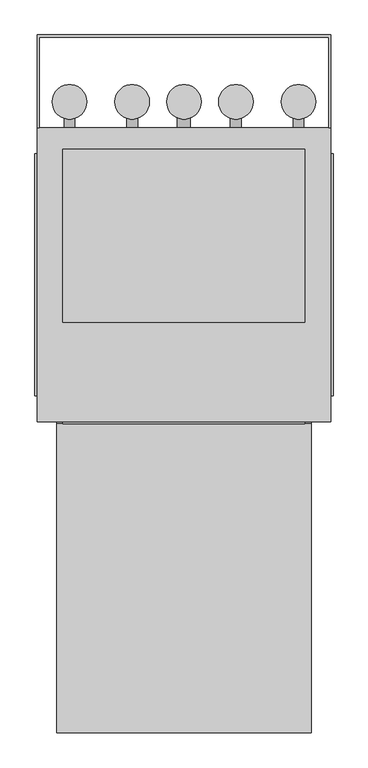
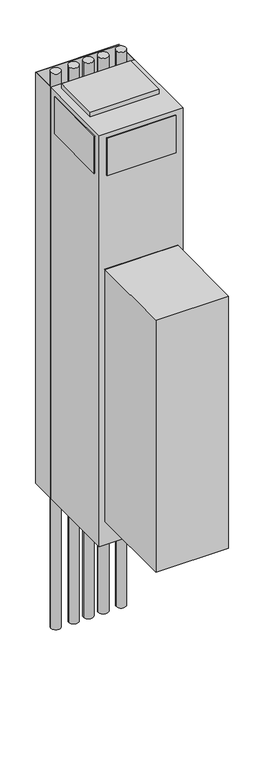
"""IFC4 building model written with IfcOpenShell, lengths in millimetres: proxy geometry, Exposed_Modular_Fan_Coil_Unit_-_42SHA_-_CARRIER_-_4-Pipe_-_WithRisers_2022 : Size 03 - 277v/60Hz/1Ph - 4/1 Coil."""

from ifc_helpers import new_model, si_unit, point, frame, frame_2d, origin, origin_with_axes, place, context, project, spatial, polyline, circle_curve, trimmed, segment, composite_curve, outline, extrude, source, transform, mapped, element, save


def mechanical_equipment_78186132(model_context):
    return source(origin(), model_context, "Body", "SweptSolid", [
        extrude(outline(composite_curve([segment(trimmed(circle_curve(frame_2d((200.025, 282.575)), 25.4), [point((225.425, 282.575))], [point((174.625, 282.575))], False, "CARTESIAN"), True, "CONTINUOUS"), segment(trimmed(circle_curve(frame_2d((200.025, 282.575)), 25.4), [point((174.625, 282.575))], [point((225.425, 282.575))], False, "CARTESIAN"), True, "CONTINUOUS")], self_intersect=False)), frame((0.0, 0.0, -736.6), z_axis=(0.0, 0.0, 1.0), x_axis=(1.0, 0.0, 0.0)), (0.0, 0.0, 1.0), 3022.6),
        extrude(outline(composite_curve([segment(trimmed(circle_curve(frame_2d((292.1, 282.575)), 25.4), [point((317.5, 282.575))], [point((266.7, 282.575))], False, "CARTESIAN"), True, "CONTINUOUS"), segment(trimmed(circle_curve(frame_2d((292.1, 282.575)), 25.4), [point((266.7, 282.575))], [point((317.5, 282.575))], False, "CARTESIAN"), True, "CONTINUOUS")], self_intersect=False)), frame((0.0, 0.0, -736.6), z_axis=(0.0, 0.0, 1.0), x_axis=(1.0, 0.0, 0.0)), (0.0, 0.0, 1.0), 3022.6),
        extrude(outline(composite_curve([segment(trimmed(circle_curve(frame_2d((368.3, 282.575)), 25.4), [point((393.7, 282.575))], [point((342.9, 282.575))], False, "CARTESIAN"), True, "CONTINUOUS"), segment(trimmed(circle_curve(frame_2d((368.3, 282.575)), 25.4), [point((342.9, 282.575))], [point((393.7, 282.575))], False, "CARTESIAN"), True, "CONTINUOUS")], self_intersect=False)), frame((0.0, 0.0, -736.6), z_axis=(0.0, 0.0, 1.0), x_axis=(1.0, 0.0, 0.0)), (0.0, 0.0, 1.0), 3022.6),
        extrude(outline(composite_curve([segment(trimmed(circle_curve(frame_2d((444.5, 282.575)), 25.4), [point((469.9, 282.575))], [point((419.1, 282.575))], False, "CARTESIAN"), True, "CONTINUOUS"), segment(trimmed(circle_curve(frame_2d((444.5, 282.575)), 25.4), [point((419.1, 282.575))], [point((469.9, 282.575))], False, "CARTESIAN"), True, "CONTINUOUS")], self_intersect=False)), frame((0.0, 0.0, -736.6), z_axis=(0.0, 0.0, 1.0), x_axis=(1.0, 0.0, 0.0)), (0.0, 0.0, 1.0), 3022.6),
        extrude(outline(composite_curve([segment(trimmed(circle_curve(frame_2d((536.575, 282.575)), 25.4), [point((561.975, 282.575))], [point((511.175, 282.575))], False, "CARTESIAN"), True, "CONTINUOUS"), segment(trimmed(circle_curve(frame_2d((536.575, 282.575)), 25.4), [point((511.175, 282.575))], [point((561.975, 282.575))], False, "CARTESIAN"), True, "CONTINUOUS")], self_intersect=False)), frame((0.0, 0.0, -736.6), z_axis=(0.0, 0.0, 1.0), x_axis=(1.0, 0.0, 0.0)), (0.0, 0.0, 1.0), 3022.6),
        extrude(outline(polyline([(555.625, -190.5), (555.625, -644.525), (180.975, -644.525), (180.975, -190.5), (555.625, -190.5)])), frame((0.0, 0.0, 127.0), z_axis=(0.0, 0.0, 1.0), x_axis=(1.0, 0.0, 0.0)), (0.0, 0.0, 1.0), 1371.6),
        extrude(outline(polyline([(152.4, 381.0), (584.2, 381.0), (584.2, 244.475), (581.025, 244.475), (581.025, 377.825), (155.575, 377.825), (155.575, 244.475), (152.4, 244.475), (152.4, 381.0)])), origin_with_axes(), (0.0, 0.0, 1.0), 2235.2),
        extrude(outline(composite_curve([segment(trimmed(circle_curve(frame_2d((990.6, 444.5)), 7.9375), [point((990.6, 452.4375))], [point((990.6, 436.5625))], False, "CARTESIAN"), True, "CONTINUOUS"), segment(trimmed(circle_curve(frame_2d((990.6, 444.5)), 7.9375), [point((990.6, 436.5625))], [point((990.6, 452.4375))], False, "CARTESIAN"), True, "CONTINUOUS")], self_intersect=False)), frame((0.0, 244.475, 0.0), z_axis=(0.0, 1.0, 0.0), x_axis=(0.0, 0.0, 1.0)), (0.0, 0.0, 1.0), 25.4),
        extrude(outline(composite_curve([segment(trimmed(circle_curve(frame_2d((990.6, 292.1)), 7.9375), [point((990.6, 300.0375))], [point((990.6, 284.1625))], False, "CARTESIAN"), True, "CONTINUOUS"), segment(trimmed(circle_curve(frame_2d((990.6, 292.1)), 7.9375), [point((990.6, 284.1625))], [point((990.6, 300.0375))], False, "CARTESIAN"), True, "CONTINUOUS")], self_intersect=False)), frame((0.0, 244.475, 0.0), z_axis=(0.0, 1.0, 0.0), x_axis=(0.0, 0.0, 1.0)), (0.0, 0.0, 1.0), 25.4),
        extrude(outline(composite_curve([segment(trimmed(circle_curve(frame_2d((76.2, 368.3)), 9.525), [point((76.2, 377.825))], [point((76.2, 358.775))], False, "CARTESIAN"), True, "CONTINUOUS"), segment(trimmed(circle_curve(frame_2d((76.2, 368.3)), 9.525), [point((76.2, 358.775))], [point((76.2, 377.825))], False, "CARTESIAN"), True, "CONTINUOUS")], self_intersect=False)), frame((0.0, 244.475, 0.0), z_axis=(0.0, 1.0, 0.0), x_axis=(0.0, 0.0, 1.0)), (0.0, 0.0, 1.0), 25.4),
        extrude(outline(composite_curve([segment(trimmed(circle_curve(frame_2d((990.6, 536.575)), 7.9375), [point((990.6, 544.5125))], [point((990.6, 528.6375))], False, "CARTESIAN"), True, "CONTINUOUS"), segment(trimmed(circle_curve(frame_2d((990.6, 536.575)), 7.9375), [point((990.6, 528.6375))], [point((990.6, 544.5125))], False, "CARTESIAN"), True, "CONTINUOUS")], self_intersect=False)), frame((0.0, 244.475, 0.0), z_axis=(0.0, 1.0, 0.0), x_axis=(0.0, 0.0, 1.0)), (0.0, 0.0, 1.0), 25.4),
        extrude(outline(composite_curve([segment(trimmed(circle_curve(frame_2d((990.6, 200.025)), 7.9375), [point((990.6, 207.9625))], [point((990.6, 192.0875))], False, "CARTESIAN"), True, "CONTINUOUS"), segment(trimmed(circle_curve(frame_2d((990.6, 200.025)), 7.9375), [point((990.6, 192.0875))], [point((990.6, 207.9625))], False, "CARTESIAN"), True, "CONTINUOUS")], self_intersect=False)), frame((0.0, 244.475, 0.0), z_axis=(0.0, 1.0, 0.0), x_axis=(0.0, 0.0, 1.0)), (0.0, 0.0, 1.0), 25.4),
        extrude(outline(polyline([(555.625, -190.5), (180.975, -190.5), (180.975, -187.325), (555.625, -187.325), (555.625, -190.5)])), frame((0.0, 0.0, 127.0), z_axis=(0.0, 0.0, 1.0), x_axis=(1.0, 0.0, 0.0)), (0.0, 0.0, 1.0), 1371.6),
        extrude(outline(polyline([(587.375, 206.375), (587.375, -149.225), (584.2, -149.225), (584.2, 206.375), (587.375, 206.375)])), frame((0.0, 0.0, 2006.6), z_axis=(0.0, 0.0, 1.0), x_axis=(1.0, 0.0, 0.0)), (0.0, 0.0, 1.0), 203.2),
        extrude(outline(polyline([(149.225, -149.225), (149.225, 206.375), (152.4, 206.375), (152.4, -149.225), (149.225, -149.225)])), frame((0.0, 0.0, 2006.6), z_axis=(0.0, 0.0, 1.0), x_axis=(1.0, 0.0, 0.0)), (0.0, 0.0, 1.0), 203.2),
        extrude(outline(polyline([(546.1, -190.5), (190.5, -190.5), (190.5, -187.325), (546.1, -187.325), (546.1, -190.5)])), frame((0.0, 0.0, 2006.6), z_axis=(0.0, 0.0, 1.0), x_axis=(1.0, 0.0, 0.0)), (0.0, 0.0, 1.0), 203.2),
        extrude(outline(polyline([(546.1, 212.725), (546.1, -41.275), (190.5, -41.275), (190.5, 212.725), (546.1, 212.725)])), frame((0.0, 0.0, 2235.2), z_axis=(0.0, 0.0, 1.0), x_axis=(1.0, 0.0, 0.0)), (0.0, 0.0, 1.0), 25.4),
        extrude(outline(polyline([(584.2, 244.475), (584.2, -187.325), (152.4, -187.325), (152.4, 244.475), (584.2, 244.475)])), origin_with_axes(), (0.0, 0.0, 1.0), 2235.2),
    ])


if __name__ == "__main__":
    model = new_model("IFC4")
    model_context = context("Model", 3, world=origin())
    ifc_project = project(units=[si_unit("LENGTHUNIT", "METRE", prefix="MILLI")], contexts=[model_context])
    site = spatial("IfcSite", under=ifc_project)
    building = spatial("IfcBuilding", under=site)
    placement = place(None, origin())
    mechanical_equipment_shape = mechanical_equipment_78186132(model_context)
    element("IfcBuildingElementProxy", 1, Name="Exposed_Modular_Fan_Coil_Unit_-_42SHA_-_CARRIER_-_4-Pipe_-_WithRisers_2022 : Size 03 - 277v/60Hz/1Ph - 4/1 Coil", ObjectType="Exposed_Modular_Fan_Coil_Unit_-_42SHA_-_CARRIER_-_4-Pipe_-_WithRisers_2022 : Size 03 - 277v/60Hz/1Ph - 4/1 Coil", at=placement, inside=building, context=model_context, shape_type="MappedRepresentation", body=[
        mapped(mechanical_equipment_shape, transform((0.0, 0.0, 0.0), x_axis=(1.0, 0.0, 0.0), y_axis=(0.0, 1.0, 0.0), z_axis=(0.0, 0.0, 1.0))),
    ])
    save(model, "model.ifc")
